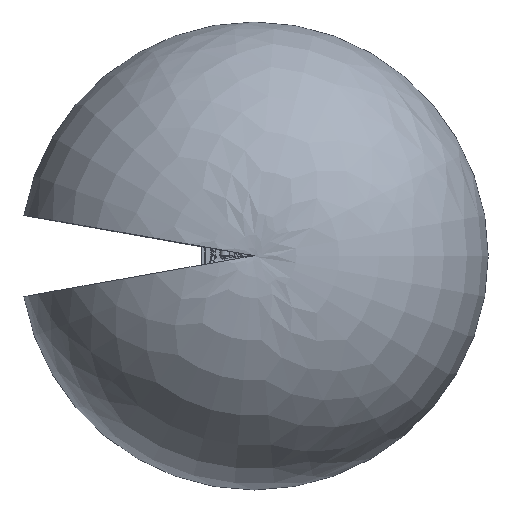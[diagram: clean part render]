
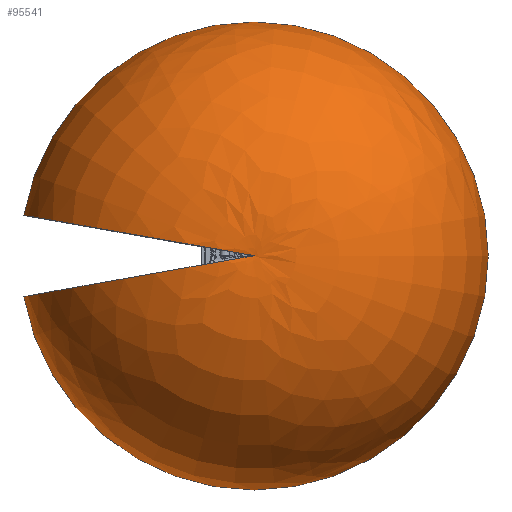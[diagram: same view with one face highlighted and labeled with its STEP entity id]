
A CAD part, top view. The second image highlights one B-rep face of the part: STEP entity #95541.
In plain terms, the highlighted free-form (B-spline) face has degree [2, 2] with [5, 9] control points.
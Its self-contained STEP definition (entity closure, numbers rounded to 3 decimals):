
#245=(
BOUNDED_SURFACE()
B_SPLINE_SURFACE(2,2,((#232520,#232521,#232522,#232523,#232524,#232525,
#232526,#232527,#232528),(#232529,#232530,#232531,#232532,#232533,#232534,
#232535,#232536,#232537),(#232538,#232539,#232540,#232541,#232542,#232543,
#232544,#232545,#232546),(#232547,#232548,#232549,#232550,#232551,#232552,
#232553,#232554,#232555),(#232556,#232557,#232558,#232559,#232560,#232561,
#232562,#232563,#232564)),.UNSPECIFIED.,.F.,.F.,.F.)
B_SPLINE_SURFACE_WITH_KNOTS((3,2,3),(3,2,2,2,3),(0.045,0.873,
1.7),(-2.967,-1.484,0.,
1.484,2.967),.UNSPECIFIED.)
GEOMETRIC_REPRESENTATION_ITEM()
RATIONAL_B_SPLINE_SURFACE(((1.,0.737,1.,0.737,1.,
0.737,1.,0.737,1.),(0.916,0.675,
0.916,0.675,0.916,0.675,
0.916,0.675,0.916),(1.,0.737,
1.,0.737,1.,0.737,1.,0.737,1.),(0.916,
0.675,0.916,0.675,0.916,
0.675,0.916,0.675,0.916),
(1.,0.737,1.,0.737,1.,0.737,1.,0.737,
1.)))
REPRESENTATION_ITEM('')
SURFACE()
);
#7980=CIRCLE('',#104382,2794.);
#7987=CIRCLE('',#104389,2476.489);
#7988=CIRCLE('',#104390,2476.489);
#13944=FACE_OUTER_BOUND('',#20392,.T.);
#20392=EDGE_LOOP('',(#86128,#86129,#86130));
#45725=VERTEX_POINT('',#232435);
#45726=VERTEX_POINT('',#232437);
#45730=VERTEX_POINT('',#232565);
#59191=EDGE_CURVE('',#45726,#45725,#7980,.T.);
#59198=EDGE_CURVE('',#45730,#45725,#7987,.T.);
#59199=EDGE_CURVE('',#45730,#45726,#7988,.T.);
#86128=ORIENTED_EDGE('',*,*,#59191,.T.);
#86129=ORIENTED_EDGE('',*,*,#59198,.F.);
#86130=ORIENTED_EDGE('',*,*,#59199,.T.);
#95541=ADVANCED_FACE('',(#13944),#245,.F.);
#104382=AXIS2_PLACEMENT_3D('',#232438,#129507,#129508);
#104389=AXIS2_PLACEMENT_3D('',#232566,#129521,#129522);
#104390=AXIS2_PLACEMENT_3D('',#232567,#129523,#129524);
#129507=DIRECTION('center_axis',(0.,0.,1.));
#129508=DIRECTION('ref_axis',(1.,0.,0.));
#129521=DIRECTION('center_axis',(-0.174,-0.985,
0.));
#129522=DIRECTION('ref_axis',(0.,0.,-1.));
#129523=DIRECTION('center_axis',(0.174,-0.985,0.));
#129524=DIRECTION('ref_axis',(0.,0.,-1.));
#232435=CARTESIAN_POINT('',(-2751.553,485.173,891.));
#232437=CARTESIAN_POINT('',(-2751.553,-485.173,891.));
#232438=CARTESIAN_POINT('Origin',(0.,0.,891.));
#232520=CARTESIAN_POINT('Ctrl Pts',(-2751.553,-485.173,
891.));
#232521=CARTESIAN_POINT('Ctrl Pts',(-2306.974,-3006.507,
891.));
#232522=CARTESIAN_POINT('Ctrl Pts',(243.513,-2783.368,
891.));
#232523=CARTESIAN_POINT('Ctrl Pts',(2794.,-2560.229,891.));
#232524=CARTESIAN_POINT('Ctrl Pts',(2794.,0.,891.));
#232525=CARTESIAN_POINT('Ctrl Pts',(2794.,2560.229,891.));
#232526=CARTESIAN_POINT('Ctrl Pts',(243.513,2783.368,891.));
#232527=CARTESIAN_POINT('Ctrl Pts',(-2306.974,3006.507,891.));
#232528=CARTESIAN_POINT('Ctrl Pts',(-2751.553,485.173,
891.));
#232529=CARTESIAN_POINT('Ctrl Pts',(-2703.536,-476.706,
1977.722));
#232530=CARTESIAN_POINT('Ctrl Pts',(-2266.715,-2954.041,
1977.722));
#232531=CARTESIAN_POINT('Ctrl Pts',(239.264,-2734.796,
1977.722));
#232532=CARTESIAN_POINT('Ctrl Pts',(2745.242,-2515.551,1977.722));
#232533=CARTESIAN_POINT('Ctrl Pts',(2745.242,0.,1977.722));
#232534=CARTESIAN_POINT('Ctrl Pts',(2745.242,2515.551,1977.722));
#232535=CARTESIAN_POINT('Ctrl Pts',(239.264,2734.796,1977.722));
#232536=CARTESIAN_POINT('Ctrl Pts',(-2266.715,2954.041,
1977.722));
#232537=CARTESIAN_POINT('Ctrl Pts',(-2703.536,476.706,1977.722));
#232538=CARTESIAN_POINT('Ctrl Pts',(-1882.922,-332.01,
2677.006));
#232539=CARTESIAN_POINT('Ctrl Pts',(-1578.691,-2057.39,
2677.006));
#232540=CARTESIAN_POINT('Ctrl Pts',(166.639,-1904.693,
2677.006));
#232541=CARTESIAN_POINT('Ctrl Pts',(1911.969,-1751.997,
2677.006));
#232542=CARTESIAN_POINT('Ctrl Pts',(1911.969,0.,2677.006));
#232543=CARTESIAN_POINT('Ctrl Pts',(1911.969,1751.997,2677.006));
#232544=CARTESIAN_POINT('Ctrl Pts',(166.639,1904.693,2677.006));
#232545=CARTESIAN_POINT('Ctrl Pts',(-1578.691,2057.39,
2677.006));
#232546=CARTESIAN_POINT('Ctrl Pts',(-1882.922,332.01,
2677.006));
#232547=CARTESIAN_POINT('Ctrl Pts',(-1062.308,-187.314,
3376.29));
#232548=CARTESIAN_POINT('Ctrl Pts',(-890.667,-1160.739,
3376.29));
#232549=CARTESIAN_POINT('Ctrl Pts',(94.015,-1074.591,3376.29));
#232550=CARTESIAN_POINT('Ctrl Pts',(1078.696,-988.443,
3376.29));
#232551=CARTESIAN_POINT('Ctrl Pts',(1078.696,0.,3376.29));
#232552=CARTESIAN_POINT('Ctrl Pts',(1078.696,988.443,3376.29));
#232553=CARTESIAN_POINT('Ctrl Pts',(94.015,1074.591,3376.29));
#232554=CARTESIAN_POINT('Ctrl Pts',(-890.667,1160.739,
3376.29));
#232555=CARTESIAN_POINT('Ctrl Pts',(-1062.308,187.314,
3376.29));
#232556=CARTESIAN_POINT('Ctrl Pts',(0.,0.,
3235.727));
#232557=CARTESIAN_POINT('Ctrl Pts',(0.,0.,
3235.727));
#232558=CARTESIAN_POINT('Ctrl Pts',(0.,0.,
3235.727));
#232559=CARTESIAN_POINT('Ctrl Pts',(0.,0.,
3235.727));
#232560=CARTESIAN_POINT('Ctrl Pts',(0.,0.,3235.727));
#232561=CARTESIAN_POINT('Ctrl Pts',(0.,0.,
3235.727));
#232562=CARTESIAN_POINT('Ctrl Pts',(0.,0.,
3235.727));
#232563=CARTESIAN_POINT('Ctrl Pts',(0.,0.,
3235.727));
#232564=CARTESIAN_POINT('Ctrl Pts',(0.,0.,
3235.727));
#232565=CARTESIAN_POINT('',(0.,0.,3235.727));
#232566=CARTESIAN_POINT('Origin',(-315.138,55.567,780.));
#232567=CARTESIAN_POINT('Origin',(-315.138,-55.567,780.));
